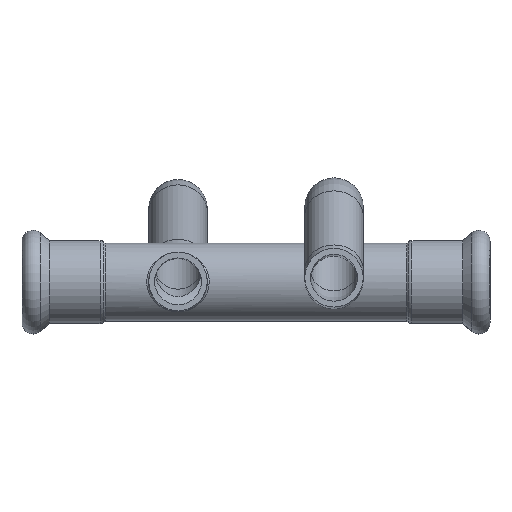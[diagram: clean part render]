
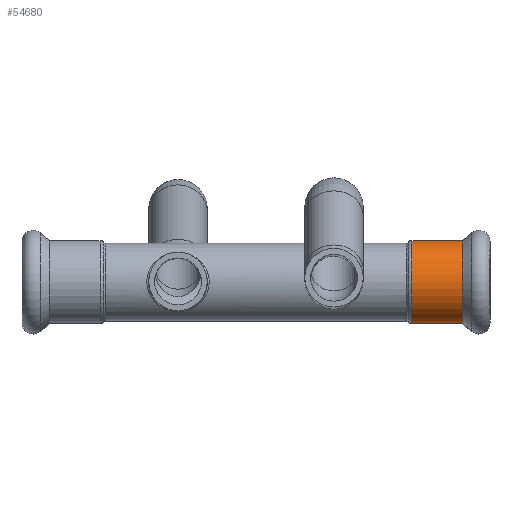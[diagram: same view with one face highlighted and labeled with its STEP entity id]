
A CAD part, top view. The second image highlights one B-rep face of the part: STEP entity #54680.
In plain terms, the highlighted cylindrical face has radius 10.625 mm (diameter 21.25 mm), a partial arc.
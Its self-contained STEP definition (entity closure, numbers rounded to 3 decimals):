
#4190=CARTESIAN_POINT('',(12.826,91.66,0.));
#4200=VERTEX_POINT('',#4190);
#4290=CARTESIAN_POINT('',(12.826,112.91,0.));
#4300=VERTEX_POINT('',#4290);
#4330=CARTESIAN_POINT('',(12.826,102.285,0.));
#4340=DIRECTION('',(1.,0.,0.));
#4350=DIRECTION('',(0.,-1.,-0.));
#4360=AXIS2_PLACEMENT_3D('',#4330,#4340,#4350);
#4370=CIRCLE('',#4360,10.625);
#4430=CARTESIAN_POINT('',(19.318,102.285,0.));
#4440=DIRECTION('',(1.,0.,0.));
#4450=DIRECTION('',(-0.,-1.,-0.));
#4460=AXIS2_PLACEMENT_3D('',#4430,#4440,#4450);
#4470=CYLINDRICAL_SURFACE('',#4460,10.625);
#4480=CARTESIAN_POINT('',(19.318,91.66,0.));
#4490=DIRECTION('',(1.,0.,0.));
#4500=VECTOR('',#4490,1.);
#4510=LINE('',#4480,#4500);
#4520=CARTESIAN_POINT('',(25.81,91.66,0.));
#4530=VERTEX_POINT('',#4520);
#4540=EDGE_CURVE('',#4200,#4530,#4510,.T.);
#4570=CARTESIAN_POINT('',(19.318,112.91,
0.));
#4580=DIRECTION('',(1.,0.,0.));
#4590=VECTOR('',#4580,1.);
#4600=LINE('',#4570,#4590);
#4610=CARTESIAN_POINT('',(25.81,112.91,
0.));
#4620=VERTEX_POINT('',#4610);
#4630=EDGE_CURVE('',#4300,#4620,#4600,.T.);
#4650=CARTESIAN_POINT('',(25.81,102.285,0.));
#4660=DIRECTION('',(1.,0.,0.));
#4670=DIRECTION('',(0.,-1.,-0.));
#4680=AXIS2_PLACEMENT_3D('',#4650,#4660,#4670);
#4690=CIRCLE('',#4680,10.625);
#54600=EDGE_CURVE('',#4530,#4620,#4690,.T.);
#54610=ORIENTED_EDGE('',*,*,#54600,.F.);
#54620=ORIENTED_EDGE('',*,*,#4630,.T.);
#54630=EDGE_CURVE('',#4200,#4300,#4370,.T.);
#54640=ORIENTED_EDGE('',*,*,#54630,.T.);
#54650=ORIENTED_EDGE('',*,*,#4540,.F.);
#54660=EDGE_LOOP('',(#54650,#54640,#54620,#54610));
#54670=FACE_OUTER_BOUND('',#54660,.T.);
#54680=ADVANCED_FACE('',(#54670),#4470,.T.);
